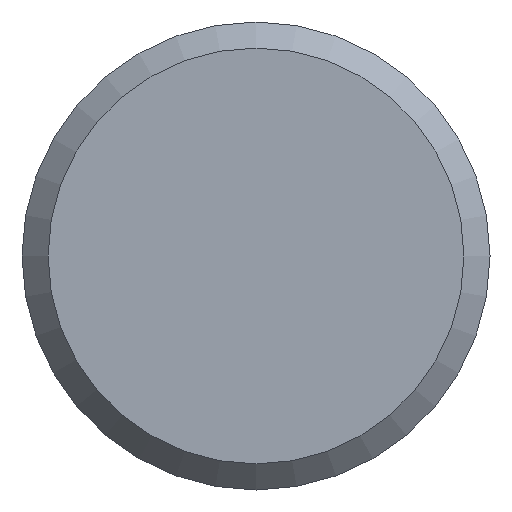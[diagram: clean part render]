
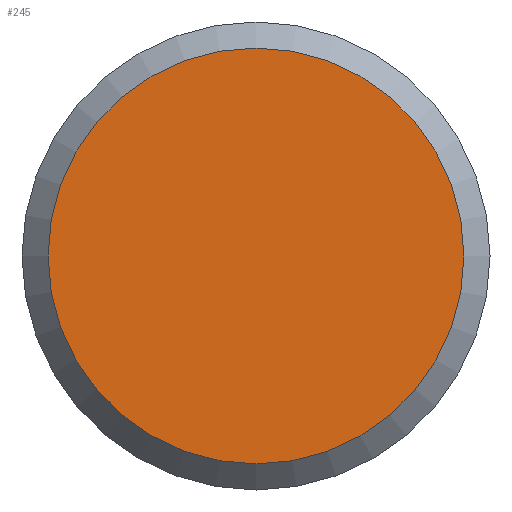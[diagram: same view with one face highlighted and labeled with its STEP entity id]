
A CAD part, front view. The second image highlights one B-rep face of the part: STEP entity #245.
In plain terms, the highlighted planar face has unit normal (0, -1, 0).
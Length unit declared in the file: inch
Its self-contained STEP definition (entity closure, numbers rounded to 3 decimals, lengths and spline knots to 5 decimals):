
#17=CIRCLE('',#271,0.46);
#35=FACE_OUTER_BOUND('',#48,.T.);
#48=EDGE_LOOP('',(#199));
#116=VERTEX_POINT('',#416);
#147=EDGE_CURVE('',#116,#116,#17,.T.);
#199=ORIENTED_EDGE('',*,*,#147,.F.);
#234=PLANE('',#277);
#245=ADVANCED_FACE('',(#35),#234,.T.);
#271=AXIS2_PLACEMENT_3D('',#417,#312,#313);
#277=AXIS2_PLACEMENT_3D('',#429,#326,#327);
#312=DIRECTION('center_axis',(0.,1.,0.));
#313=DIRECTION('ref_axis',(0.,0.,1.));
#326=DIRECTION('center_axis',(0.,-1.,0.));
#327=DIRECTION('ref_axis',(0.,0.,-1.));
#416=CARTESIAN_POINT('',(0.,0.,-0.46));
#417=CARTESIAN_POINT('Origin',(0.,0.,0.));
#429=CARTESIAN_POINT('Origin',(0.,0.,0.));
